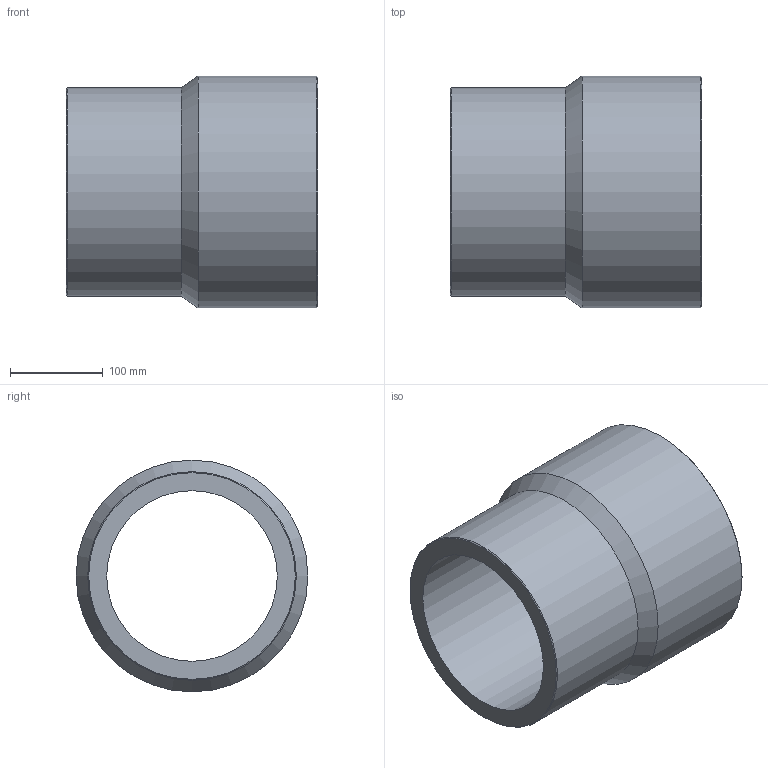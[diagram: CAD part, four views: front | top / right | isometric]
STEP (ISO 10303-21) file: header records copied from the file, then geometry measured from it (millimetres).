
FILE_DESCRIPTION(/* description */ ('Unknown'),/* implementation_level */ '2;1');
FILE_NAME(/* name */ 'RP250225C',/* time_stamp */ '2021-09-17T15:28:19+02:00',/* author */ ('Unknown'),/* organization */ ('Unknown'),/* preprocessor_version */ 'ST-DEVELOPER v16.7',/* originating_system */ 'Solid Edge',/* authorisation */ 'Unknown');
FILE_SCHEMA (('AUTOMOTIVE_DESIGN {1 0 10303 214 3 1 1}'));
Length unit declared in the file: millimetre
Products named in the file (1): RP250225C
Bounding box: 271 x 250 x 250 mm (x, y, z)
Volume: 4062714 mm3; surface area: 400476.6 mm2
Topology: 1 solids, 1 shells, 10 faces, 19 edges, 11 vertices
Faces by surface type: cylinder 4, cone 4, plane 2
Full cylindrical faces by diameter (mm): 184 x1, 204.6 x1, 225 x1, 250 x1
Entity records: 238 total; most frequent: DIRECTION 42, CARTESIAN_POINT 31, AXIS2_PLACEMENT_3D 21, ORIENTED_EDGE 20, EDGE_LOOP 20, FACE_BOUND 20, EDGE_CURVE 10, VERTEX_POINT 10
